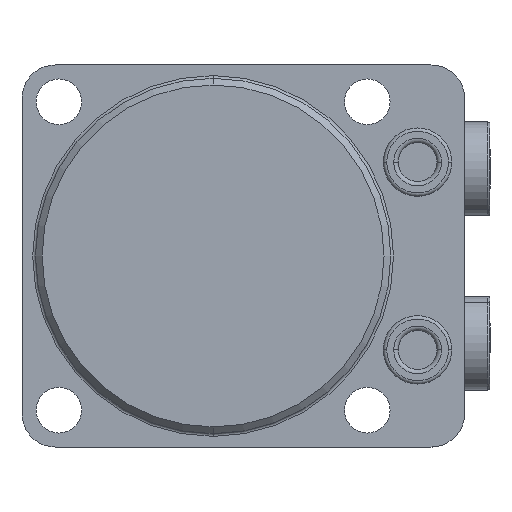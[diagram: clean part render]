
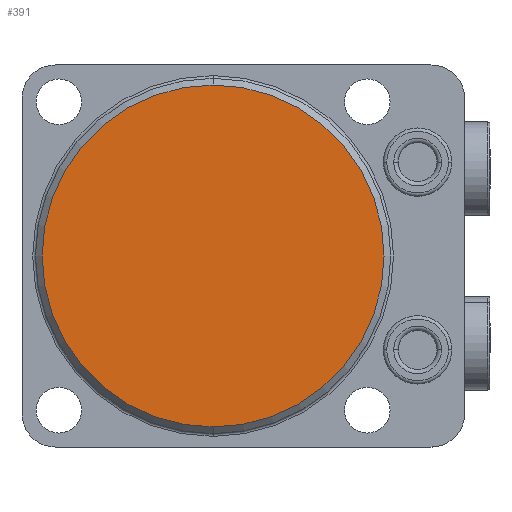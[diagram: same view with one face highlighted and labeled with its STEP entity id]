
A CAD part, front view. The second image highlights one B-rep face of the part: STEP entity #391.
In plain terms, the highlighted planar face has unit normal (0, -1, 0) as drawn and (0, 1, 0) by its records, which use the part's own axes.
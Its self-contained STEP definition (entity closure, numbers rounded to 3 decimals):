
#229=PLANE('',#3160);
#391=ADVANCED_FACE('',(#635),#229,.T.);
#635=FACE_OUTER_BOUND('',#813,.F.);
#813=EDGE_LOOP('',(#1414,#1415));
#1042=CIRCLE('',#3124,25.5);
#1064=CIRCLE('',#3159,25.5);
#1414=ORIENTED_EDGE('',*,*,#2446,.T.);
#1415=ORIENTED_EDGE('',*,*,#2385,.T.);
#2098=VERTEX_POINT('',#4638);
#2099=VERTEX_POINT('',#4639);
#2385=EDGE_CURVE('',#2098,#2099,#1042,.T.);
#2446=EDGE_CURVE('',#2099,#2098,#1064,.T.);
#3124=AXIS2_PLACEMENT_3D('',#4637,#3668,#3669);
#3159=AXIS2_PLACEMENT_3D('',#4767,#3772,#3773);
#3160=AXIS2_PLACEMENT_3D('',#4768,#3774,#3775);
#3668=DIRECTION('',(0.,-1.,0.));
#3669=DIRECTION('',(0.,0.,1.));
#3772=DIRECTION('',(0.,-1.,0.));
#3773=DIRECTION('',(0.,0.,1.));
#3774=DIRECTION('',(0.,1.,0.));
#3775=DIRECTION('',(0.,0.,-1.));
#4637=CARTESIAN_POINT('',(0.,0.,0.));
#4638=CARTESIAN_POINT('',(0.,0.,-25.5));
#4639=CARTESIAN_POINT('',(0.,0.,25.5));
#4767=CARTESIAN_POINT('',(0.,0.,0.));
#4768=CARTESIAN_POINT('',(-28.5,0.,28.5));
